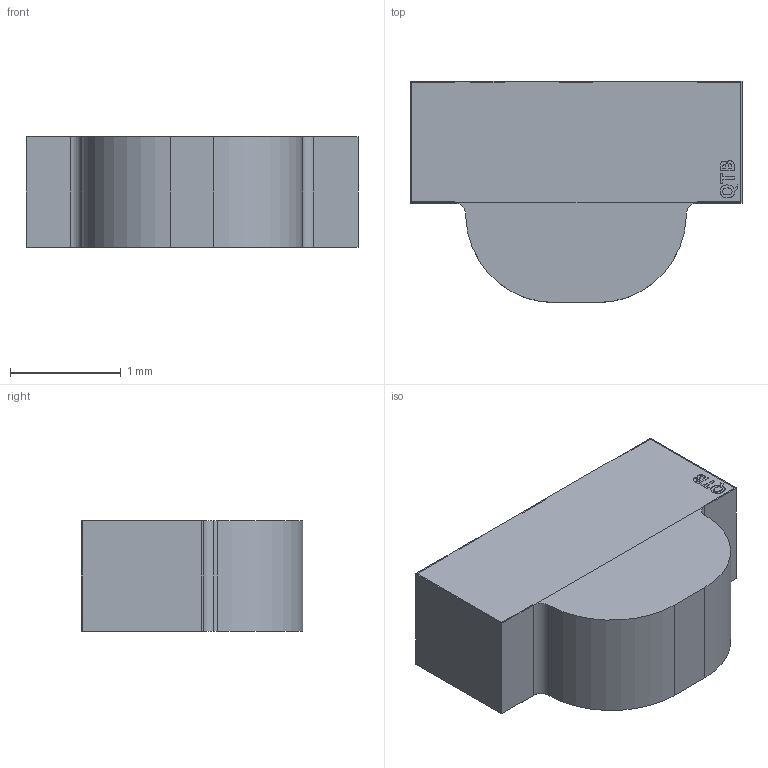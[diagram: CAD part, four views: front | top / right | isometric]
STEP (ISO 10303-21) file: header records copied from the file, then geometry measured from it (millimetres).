
FILE_DESCRIPTION(/* description */ (''),/* implementation_level */ '2;1');
FILE_NAME(/* name */ '5fab0b5cd744430f54273f01',/* time_stamp */ '2020-11-10T21:51:25+00:00',/* author */ (''),/* organization */ (''),/* preprocessor_version */ 'ST-DEVELOPER v16.7',/* originating_system */ $,/* authorisation */ $);
FILE_SCHEMA (('AUTOMOTIVE_DESIGN {1 0 10303 214 3 1 1}'));
Length unit declared in the file: metre
Products named in the file (7): QBLP613 (Mono); Polarity Mark; PAD 2; Resin; PAD 3; PAD 1; Substrate
Assembly tree (6 placements, depth 2):
  QBLP613 (Mono)
    Polarity Mark
    PAD 2
    Resin
    PAD 3
    PAD 1
    Substrate
Bounding box: 3 x 2 x 1 mm (x, y, z)
Volume: 4.8 mm3; surface area: 32.7 mm2
Topology: 6 solids, 6 shells, 145 faces, 381 edges, 254 vertices
Faces by surface type: plane 104, bspline 29, cylinder 12
Entity records: 4697 total; most frequent: CARTESIAN_POINT 1106, ORIENTED_EDGE 762, DIRECTION 593, EDGE_CURVE 381, LINE 299, VECTOR 299, VERTEX_POINT 254, EDGE_LOOP 151
